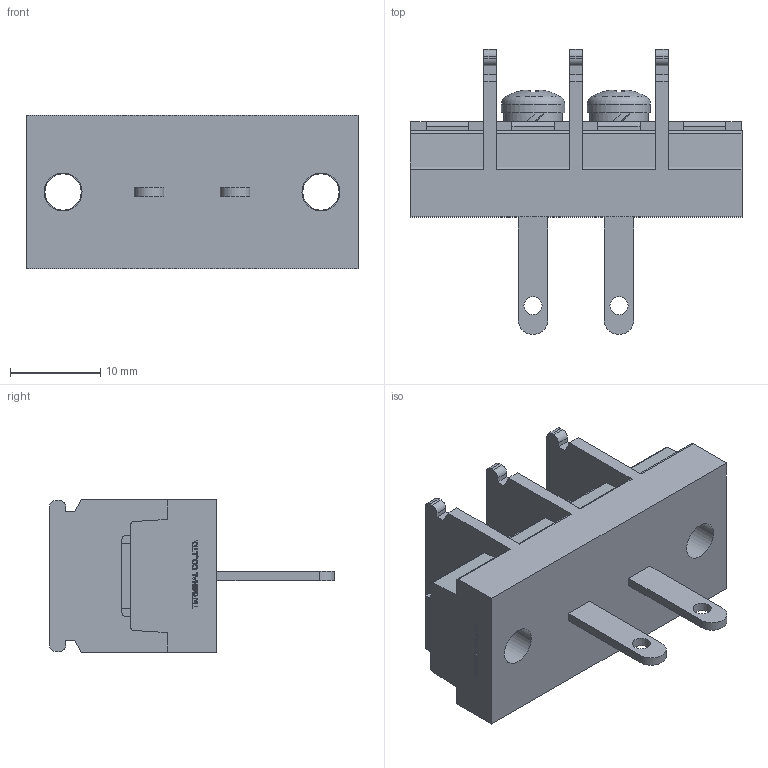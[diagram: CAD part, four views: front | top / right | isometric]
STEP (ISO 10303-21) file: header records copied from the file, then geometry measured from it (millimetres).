
FILE_DESCRIPTION(/* description */ ('Alibre Inc.'),/* implementation_level */ '2;1');
FILE_NAME(/* name */ 'export-00D48A9F-E283-4B97-83FD-F57C9DC82E91',/* time_stamp */ '2020-11-07T15:32:02+09:00',/* author */ (''),/* organization */ (''),/* preprocessor_version */ 'ST-DEVELOPER v17',/* originating_system */ 'Alibre',/* authorisation */ '');
FILE_SCHEMA (('CONFIG_CONTROL_DESIGN'));
Length unit declared in the file: millimetre
Bounding box: 36.7 x 31.5 x 17 mm (x, y, z)
Volume: 6138.2 mm3; surface area: 4250.3 mm2
Topology: 1 solids, 3 shells, 612 faces, 1662 edges, 1106 vertices
Faces by surface type: plane 440, bspline 104, cylinder 52, cone 10, torus 4, sphere 2
Full cylindrical faces by diameter (mm): 2 x2, 4 x6, 4.2 x2, 6.5 x2, 7 x2
Entity records: 18615 total; most frequent: CARTESIAN_POINT 4308, ORIENTED_EDGE 3264, DIRECTION 2124, EDGE_CURVE 1632, VECTOR 1222, LINE 1222, VERTEX_POINT 1094, EDGE_LOOP 696
